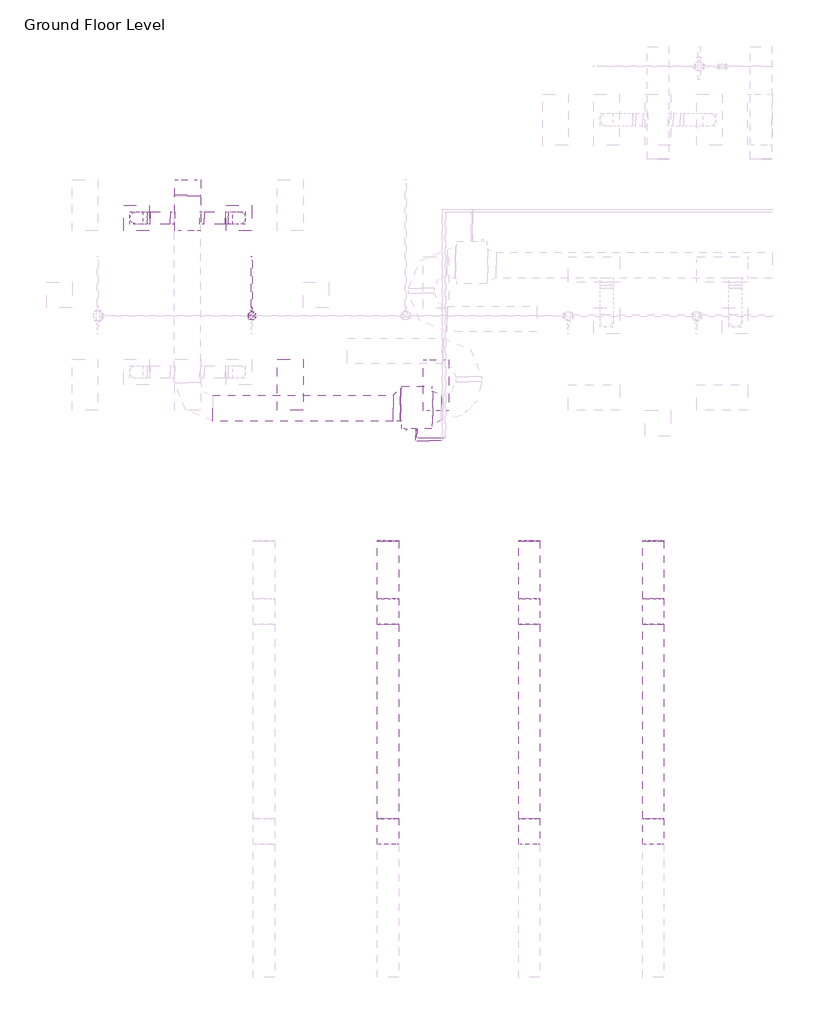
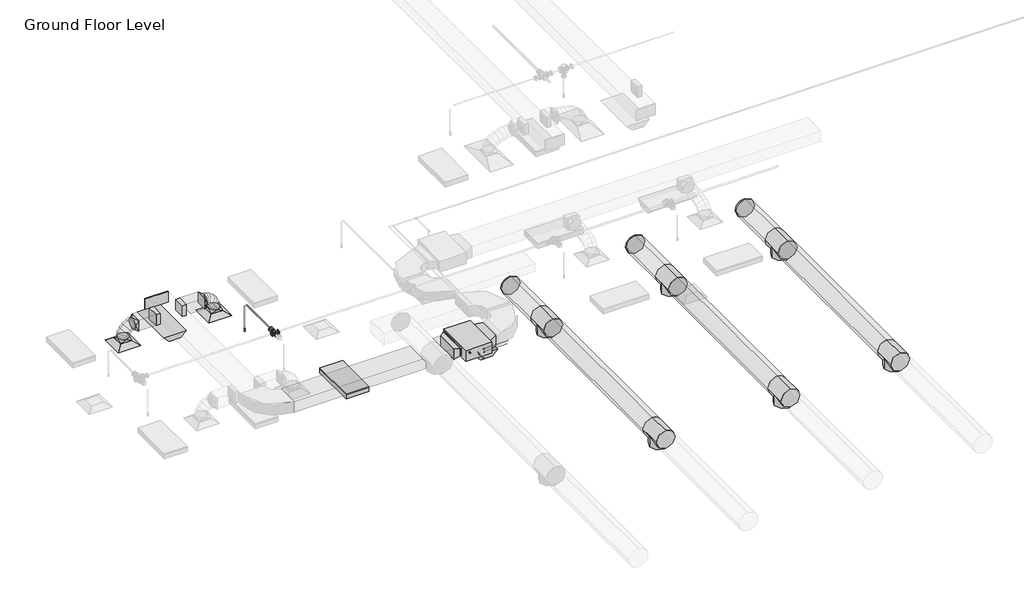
# One storey, part 11 of 75: 18 duct fittings, 12 duct segments, 6 pipe segments, 3 light fixtures, 2 air terminals, 2 pipe fittings, 1 fire suppression terminal, 1 proxy.
"""IFC4 building model written with IfcOpenShell, lengths in millimetres."""

from ifc_helpers import new_model, si_unit, point, frame, frame_2d, origin, place, context, project, spatial, polyline, circle_curve, ellipse_curve, trimmed, segment, composite_curve, outline, extrude, transform, mapped, element, save
from ifc_brep_helpers import plane_surface, cylinder_surface, advanced_brep
from components import m_return_diffuser_600_x_600_face_300_x_300_connection_ff221211, fcu_daikin_iu_7e1df382, m_rectangular_endcap_standard_0f0ff112, m_rectangular_takeoff_standard_cb0ccb98, m_rectangular_takeoff_standard_2be5eba1, m_rectangular_transition_angle_45_degree_cf32fe34, m_rectangular_transition_angle_45_degree_023bf680, m_rectangular_to_round_transition_angle_45_degree_641efff0, m_round_endcap_standard_1c45c55c, m_round_tee_standard_ed589d36, m_sprinkler_dry_pendent_hosted_15_mm_dry_pendent_9bda8e11, m_emergency_recessed_lighting_fixture_600x1200_277_5b10b25d, m_troffer_light_parabolic_rectangular1_0600x1200mm_4_lamp_86473d4a, m_cross_flanged_cs_class_150_standard_16d34c5c, m_reducer_flanged_cs_class_150_standard_ccf252ad

model = new_model("IFC4")

# Units and contexts
model_context = context("Model", 3, world=origin())
ifc_project = project(units=[si_unit("LENGTHUNIT", "METRE", prefix="MILLI")], contexts=[model_context])

# Site, building, storey
site = spatial("IfcSite", under=ifc_project)
building = spatial("IfcBuilding", under=site)
storey = spatial("IfcBuildingStorey", under=building, Name="Ground Floor Level", Elevation=900.0)

# Air terminals
placement = place(None, origin())
m_return_diffuser_600_x_600_face_300_x_300_connection_shape = m_return_diffuser_600_x_600_face_300_x_300_connection_ff221211(model_context)
element("IfcAirTerminal", 1, ObjectType="M_Supply Diffuser : 600 x 600 Face 300 x 300 Connection", at=placement, inside=storey, context=model_context, shape_type="MappedRepresentation", body=[
    mapped(m_return_diffuser_600_x_600_face_300_x_300_connection_shape, transform((-19137.2327605, -664.7846466, 3650.0), x_axis=(1.0, 0.0, 0.0), y_axis=(0.0, 1.0, 0.0), z_axis=(0.0, 0.0, 1.0))),
])
element("IfcAirTerminal", 2, ObjectType="M_Supply Diffuser : 600 x 600 Face 300 x 300 Connection", at=placement, inside=storey, context=model_context, shape_type="MappedRepresentation", body=[
    mapped(m_return_diffuser_600_x_600_face_300_x_300_connection_shape, transform((-16737.2327605, -664.7846466, 3650.0), x_axis=(1.0, 0.0, 0.0), y_axis=(0.0, 1.0, 0.0), z_axis=(0.0, 0.0, 1.0))),
])

# Proxy
fcu_daikin_iu_shape = fcu_daikin_iu_7e1df382(model_context)
element("IfcBuildingElementProxy", 3, Name="FCU-DAIKIN IU : 5.7kW, 230V/50Hz/1Ph", ObjectType="FCU-DAIKIN IU : 5.7kW, 230V/50Hz/1Ph", at=placement, inside=storey, context=model_context, shape_type="MappedRepresentation", body=[
    mapped(fcu_daikin_iu_shape, transform((-12577.2327605, -5093.8471466, 3934.0895647), x_axis=(0.0, -1.0, 0.0), y_axis=(1.0, 0.0, 0.0), z_axis=(0.0, 0.0, 1.0))),
])

# Duct fittings
m_rectangular_endcap_standard_shape = m_rectangular_endcap_standard_0f0ff112(model_context)
element("IfcDuctFitting", 4, ObjectType="M_Rectangular Endcap : Standard", at=placement, inside=storey, context=model_context, shape_type="MappedRepresentation", body=[
    mapped(m_rectangular_endcap_standard_shape, transform((-17948.0331707, -151.2845861, 4100.0020149), x_axis=(0.0, 0.999999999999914, 4.148284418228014e-07), y_axis=(-1.0, 0.0, 0.0), z_axis=(0.0, -4.148284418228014e-07, 0.999999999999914))),
])
m_rectangular_takeoff_standard_shape = m_rectangular_takeoff_standard_cb0ccb98(model_context)
element("IfcDuctFitting", 5, ObjectType="M_Rectangular Takeoff : Standard", at=placement, inside=storey, context=model_context, shape_type="MappedRepresentation", body=[
    mapped(m_rectangular_takeoff_standard_shape, transform((-18248.0331707, -664.7846466, 4100.0018019), x_axis=(-1.0, 0.0, 0.0), y_axis=(0.0, 1.0, 0.0), z_axis=(0.0, 0.0, -1.0))),
])
m_rectangular_takeoff_standard_2_shape = m_rectangular_takeoff_standard_2be5eba1(model_context)
element("IfcDuctFitting", 6, ObjectType="M_Rectangular Takeoff : Standard", at=placement, inside=storey, context=model_context, shape_type="MappedRepresentation", body=[
    mapped(m_rectangular_takeoff_standard_2_shape, transform((-17648.0331707, -664.7846466, 4100.0018019), x_axis=(1.0, 0.0, 0.0), y_axis=(0.0, -1.0, 0.0), z_axis=(0.0, 0.0, -1.0))),
])
m_rectangular_transition_angle_45_degree_shape = m_rectangular_transition_angle_45_degree_cf32fe34(model_context)
element("IfcDuctFitting", 7, ObjectType="M_Rectangular Transition - Angle : 45 Degree", at=placement, inside=storey, context=model_context, shape_type="MappedRepresentation", body=[
    mapped(m_rectangular_transition_angle_45_degree_shape, transform((-12972.63276, -5030.3471466, 4100.0020647), x_axis=(-0.9999999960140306, 0.0, -8.928571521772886e-05), y_axis=(0.0, -1.0, 0.0), z_axis=(-8.928571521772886e-05, 0.0, 0.9999999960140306))),
])
m_rectangular_transition_angle_45_degree_2_shape = m_rectangular_transition_angle_45_degree_023bf680(model_context)
element("IfcDuctFitting", 8, ObjectType="M_Rectangular Transition - Angle : 45 Degree", at=placement, inside=storey, context=model_context, shape_type="MappedRepresentation", body=[
    mapped(m_rectangular_transition_angle_45_degree_2_shape, transform((-12201.8327605, -5093.8471466, 4075.2895647), x_axis=(1.0, 0.0, 0.0), y_axis=(0.0, 1.0, 0.0), z_axis=(0.0, 0.0, 1.0))),
])
m_rectangular_to_round_transition_angle_45_degree_shape = m_rectangular_to_round_transition_angle_45_degree_641efff0(model_context)
element("IfcDuctFitting", 9, ObjectType="M_Rectangular to Round Transition - Angle : 45 Degree", at=placement, inside=storey, context=model_context, shape_type="MappedRepresentation", body=[
    mapped(m_rectangular_to_round_transition_angle_45_degree_shape, transform((-19137.2327605, -664.7846466, 3751.6), x_axis=(0.0, 0.0, 1.0), y_axis=(-1.0, 0.0, 0.0), z_axis=(0.0, -1.0, 0.0))),
])
element("IfcDuctFitting", 10, ObjectType="M_Rectangular to Round Transition - Angle : 45 Degree", at=placement, inside=storey, context=model_context, shape_type="MappedRepresentation", body=[
    mapped(m_rectangular_to_round_transition_angle_45_degree_shape, transform((-18809.8986312, -664.7846466, 4100.0018019), x_axis=(-1.0, 0.0, 0.0), y_axis=(0.0, -1.0, 0.0), z_axis=(0.0, 0.0, 1.0))),
])
element("IfcDuctFitting", 11, ObjectType="M_Rectangular to Round Transition - Angle : 45 Degree", at=placement, inside=storey, context=model_context, shape_type="MappedRepresentation", body=[
    mapped(m_rectangular_to_round_transition_angle_45_degree_shape, transform((-16737.2327605, -664.7846466, 3751.6), x_axis=(0.0, 0.0, 1.0), y_axis=(-1.0, 0.0, 0.0), z_axis=(0.0, -1.0, 0.0))),
])
element("IfcDuctFitting", 12, ObjectType="M_Rectangular to Round Transition - Angle : 45 Degree", at=placement, inside=storey, context=model_context, shape_type="MappedRepresentation", body=[
    mapped(m_rectangular_to_round_transition_angle_45_degree_shape, transform((-17064.5668899, -664.7846466, 4100.0018019), x_axis=(1.0, 0.0, 0.0), y_axis=(0.0, 1.0, 0.0), z_axis=(0.0, 0.0, 1.0))),
])
m_round_endcap_standard_shape = m_round_endcap_standard_1c45c55c(model_context)
element("IfcDuctFitting", 13, ObjectType="M_Round Endcap : Standard", at=placement, inside=storey, context=model_context, shape_type="MappedRepresentation", body=[
    mapped(m_round_endcap_standard_shape, transform((-13250.3527512, -8221.0125677, 7765.9), x_axis=(0.0, 0.9999999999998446, -5.576948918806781e-07), y_axis=(-1.0000000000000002, 0.0, 0.0), z_axis=(0.0, 5.576948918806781e-07, 0.9999999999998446))),
])
element("IfcDuctFitting", 14, ObjectType="M_Round Endcap : Standard", at=placement, inside=storey, context=model_context, shape_type="MappedRepresentation", body=[
    mapped(m_round_endcap_standard_shape, transform((-9950.3527512, -8221.0125677, 7765.9), x_axis=(0.0, 0.9999999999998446, -5.576948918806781e-07), y_axis=(-1.0000000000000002, 0.0, 0.0), z_axis=(0.0, 5.576948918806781e-07, 0.9999999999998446))),
])
element("IfcDuctFitting", 15, ObjectType="M_Round Endcap : Standard", at=placement, inside=storey, context=model_context, shape_type="MappedRepresentation", body=[
    mapped(m_round_endcap_standard_shape, transform((-7050.3527512, -8221.0125677, 7765.9), x_axis=(0.0, 0.9999999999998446, -5.576948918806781e-07), y_axis=(-1.0000000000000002, 0.0, 0.0), z_axis=(0.0, 5.576948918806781e-07, 0.9999999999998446))),
])
m_round_tee_standard_shape = m_round_tee_standard_ed589d36(model_context)
element("IfcDuctFitting", 16, ObjectType="M_Round Tee : Standard", at=placement, inside=storey, context=model_context, shape_type="MappedRepresentation", body=[
    mapped(m_round_tee_standard_shape, transform((-13250.3527512, -9864.7844235, 7765.9009947), x_axis=(0.0, 0.9999999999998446, -5.576948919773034e-07), y_axis=(0.0, 5.576948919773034e-07, 0.9999999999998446), z_axis=(1.0, 0.0, 0.0))),
])
element("IfcDuctFitting", 17, ObjectType="M_Round Tee : Standard", at=placement, inside=storey, context=model_context, shape_type="MappedRepresentation", body=[
    mapped(m_round_tee_standard_shape, transform((-13250.3527512, -15012.784348, 7765.9038657), x_axis=(0.0, 0.9999999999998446, -5.576948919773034e-07), y_axis=(0.0, 5.576948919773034e-07, 0.9999999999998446), z_axis=(1.0, 0.0, 0.0))),
])
element("IfcDuctFitting", 18, ObjectType="M_Round Tee : Standard", at=placement, inside=storey, context=model_context, shape_type="MappedRepresentation", body=[
    mapped(m_round_tee_standard_shape, transform((-9950.3527512, -9864.7844235, 7765.9009947), x_axis=(0.0, 0.9999999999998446, -5.576948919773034e-07), y_axis=(0.0, 5.576948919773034e-07, 0.9999999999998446), z_axis=(1.0, 0.0, 0.0))),
])
element("IfcDuctFitting", 19, ObjectType="M_Round Tee : Standard", at=placement, inside=storey, context=model_context, shape_type="MappedRepresentation", body=[
    mapped(m_round_tee_standard_shape, transform((-9950.3527512, -15012.784348, 7765.9038657), x_axis=(0.0, 0.9999999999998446, -5.576948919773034e-07), y_axis=(0.0, 5.576948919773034e-07, 0.9999999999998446), z_axis=(1.0, 0.0, 0.0))),
])
element("IfcDuctFitting", 20, ObjectType="M_Round Tee : Standard", at=placement, inside=storey, context=model_context, shape_type="MappedRepresentation", body=[
    mapped(m_round_tee_standard_shape, transform((-7050.3527512, -9864.7844235, 7765.9009947), x_axis=(0.0, 0.9999999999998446, -5.576948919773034e-07), y_axis=(0.0, 5.576948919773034e-07, 0.9999999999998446), z_axis=(1.0, 0.0, 0.0))),
])
element("IfcDuctFitting", 21, ObjectType="M_Round Tee : Standard", at=placement, inside=storey, context=model_context, shape_type="MappedRepresentation", body=[
    mapped(m_round_tee_standard_shape, transform((-7050.3527512, -15012.784348, 7765.9038657), x_axis=(0.0, 0.9999999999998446, -5.576948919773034e-07), y_axis=(0.0, 5.576948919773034e-07, 0.9999999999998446), z_axis=(1.0, 0.0, 0.0))),
])

# Duct segments
element("IfcDuctSegment", 22, ObjectType="Flex - Round", at=placement, inside=storey, context=model_context, shape_type="AdvancedBrep", body=[
    advanced_brep(
    [(-18987.2327605, -664.7846466, 3826.6), (-19137.2327605, -814.7846466, 3826.6), (-19287.2327605, -664.7846466, 3826.6), (-19137.2327605, -514.7846466, 3826.6), (-18987.2327605, -664.7846466, 3832.5807508), (-19137.2327605, -814.7846466, 3854.3867302), (-19287.2327605, -664.7846466, 3876.1927096), (-19137.2327605, -514.7846466, 3854.3867302), (-18983.2862759, -664.7846466, 3845.8675264), (-19122.8956049, -814.7846466, 3902.6561626), (-19262.5049338, -664.7846466, 3959.4447987), (-19122.8956049, -514.7846466, 3902.6561626), (-18960.1038192, -664.7846466, 3889.9727121), (-19084.1279284, -814.7846466, 3976.4126063), (-19208.1520375, -664.7846466, 4062.8525006), (-19084.1279284, -514.7846466, 3976.4126063), (-18929.332672, -664.7846466, 3924.1202687), (-19027.2954168, -814.7846466, 4039.481149), (-19125.2581615, -664.7846466, 4154.8420293), (-19027.2954168, -514.7846466, 4039.481149), (-18889.6602728, -664.7846466, 3949.5871315), (-18958.7637558, -814.7846466, 4083.4736083), (-19027.8672388, -664.7846466, 4217.3600851), (-18958.7637558, -514.7846466, 4083.4736083), (-18888.6288567, -664.7846466, 3950.0018019), (-18917.6529238, -814.7846466, 4100.0018019), (-18946.676991, -664.7846466, 4250.0018019), (-18917.6529238, -514.7846466, 4100.0018019), (-18884.8986312, -664.7846466, 3950.0018019), (-18884.8986312, -514.7846466, 4100.0018019), (-18884.8986312, -664.7846466, 4250.0018019), (-18884.8986312, -814.7846466, 4100.0018019)],
    [
        (0, 1, circle_curve(frame((-19137.2327605, -664.7846466, 3826.6), z_axis=(0.0, 0.0, -1.0), x_axis=(1.0, 0.0, 0.0)), 150.0)),
        (1, 2, circle_curve(frame((-19137.2327605, -664.7846466, 3826.6), z_axis=(0.0, 0.0, -1.0), x_axis=(1.0, 0.0, 0.0)), 150.0)),
        (2, 3, circle_curve(frame((-19137.2327605, -664.7846466, 3826.6), z_axis=(0.0, 0.0, -1.0), x_axis=(1.0, 0.0, 0.0)), 150.0)),
        (3, 0, circle_curve(frame((-19137.2327605, -664.7846466, 3826.6), z_axis=(0.0, 0.0, -1.0), x_axis=(1.0, 0.0, 0.0)), 150.0)),
        (0, 4),
        (4, 5, ellipse_curve(frame((-19137.2327605, -664.7846466, 3854.3867302), z_axis=(-0.1438610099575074, 0.0, -0.9895979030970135), x_axis=(0.9895979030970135, 0.0, -0.14386100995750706)), 151.5767157, 150.0)),
        (5, 1),
        (5, 6, ellipse_curve(frame((-19137.2327605, -664.7846466, 3854.3867302), z_axis=(-0.1438610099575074, 0.0, -0.9895979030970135), x_axis=(0.9895979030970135, 0.0, -0.14386100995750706)), 151.5767157, 150.0)),
        (6, 2),
        (6, 7, ellipse_curve(frame((-19137.2327605, -664.7846466, 3854.3867302), z_axis=(-0.1438610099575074, 0.0, -0.9895979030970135), x_axis=(0.9895979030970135, 0.0, -0.14386100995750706)), 151.5767157, 150.0)),
        (7, 3),
        (7, 4, ellipse_curve(frame((-19137.2327605, -664.7846466, 3854.3867302), z_axis=(-0.1438610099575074, 0.0, -0.9895979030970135), x_axis=(0.9895979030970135, 0.0, -0.14386100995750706)), 151.5767157, 150.0)),
        (4, 8),
        (8, 9, ellipse_curve(frame((-19122.8956049, -664.7846466, 3902.6561626), z_axis=(-0.37678902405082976, 0.0, -0.9262991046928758), x_axis=(0.9262991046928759, 0.0, -0.37678902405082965)), 150.7173312, 150.0)),
        (9, 5),
        (9, 10, ellipse_curve(frame((-19122.8956049, -664.7846466, 3902.6561626), z_axis=(-0.37678902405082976, 0.0, -0.9262991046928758), x_axis=(0.9262991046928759, 0.0, -0.37678902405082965)), 150.7173312, 150.0)),
        (10, 6),
        (10, 11, ellipse_curve(frame((-19122.8956049, -664.7846466, 3902.6561626), z_axis=(-0.37678902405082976, 0.0, -0.9262991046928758), x_axis=(0.9262991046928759, 0.0, -0.37678902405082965)), 150.7173312, 150.0)),
        (11, 7),
        (11, 8, ellipse_curve(frame((-19122.8956049, -664.7846466, 3902.6561626), z_axis=(-0.37678902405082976, 0.0, -0.9262991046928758), x_axis=(0.9262991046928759, 0.0, -0.37678902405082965)), 150.7173312, 150.0)),
        (8, 12),
        (12, 13, ellipse_curve(frame((-19084.1279284, -664.7846466, 3976.4126063), z_axis=(-0.5717875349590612, 0.0, -0.8204017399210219), x_axis=(0.8204017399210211, 0.0, -0.5717875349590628)), 151.174849, 150.0)),
        (13, 9),
        (13, 14, ellipse_curve(frame((-19084.1279284, -664.7846466, 3976.4126063), z_axis=(-0.5717875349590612, 0.0, -0.8204017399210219), x_axis=(0.8204017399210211, 0.0, -0.5717875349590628)), 151.174849, 150.0)),
        (14, 10),
        (14, 15, ellipse_curve(frame((-19084.1279284, -664.7846466, 3976.4126063), z_axis=(-0.5717875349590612, 0.0, -0.8204017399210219), x_axis=(0.8204017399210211, 0.0, -0.5717875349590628)), 151.174849, 150.0)),
        (15, 11),
        (15, 12, ellipse_curve(frame((-19084.1279284, -664.7846466, 3976.4126063), z_axis=(-0.5717875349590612, 0.0, -0.8204017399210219), x_axis=(0.8204017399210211, 0.0, -0.5717875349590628)), 151.174849, 150.0)),
        (12, 16),
        (16, 17, ellipse_curve(frame((-19027.2954168, -664.7846466, 4039.481149), z_axis=(-0.7622457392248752, 0.0, -0.6472877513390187), x_axis=(0.6472877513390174, 0.0, -0.7622457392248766)), 151.3434242, 150.0)),
        (17, 13),
        (17, 18, ellipse_curve(frame((-19027.2954168, -664.7846466, 4039.481149), z_axis=(-0.7622457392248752, 0.0, -0.6472877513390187), x_axis=(0.6472877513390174, 0.0, -0.7622457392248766)), 151.3434242, 150.0)),
        (18, 14),
        (18, 19, ellipse_curve(frame((-19027.2954168, -664.7846466, 4039.481149), z_axis=(-0.7622457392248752, 0.0, -0.6472877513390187), x_axis=(0.6472877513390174, 0.0, -0.7622457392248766)), 151.3434242, 150.0)),
        (19, 15),
        (19, 16, ellipse_curve(frame((-19027.2954168, -664.7846466, 4039.481149), z_axis=(-0.7622457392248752, 0.0, -0.6472877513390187), x_axis=(0.6472877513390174, 0.0, -0.7622457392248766)), 151.3434242, 150.0)),
        (16, 20),
        (20, 21, ellipse_curve(frame((-18958.7637558, -664.7846466, 4083.4736083), z_axis=(-0.8886185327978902, 0.0, -0.45864703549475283), x_axis=(0.4586470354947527, 0.0, -0.8886185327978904)), 150.6681122, 150.0)),
        (21, 17),
        (21, 22, ellipse_curve(frame((-18958.7637558, -664.7846466, 4083.4736083), z_axis=(-0.8886185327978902, 0.0, -0.45864703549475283), x_axis=(0.4586470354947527, 0.0, -0.8886185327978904)), 150.6681122, 150.0)),
        (22, 18),
        (22, 23, ellipse_curve(frame((-18958.7637558, -664.7846466, 4083.4736083), z_axis=(-0.8886185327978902, 0.0, -0.45864703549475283), x_axis=(0.4586470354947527, 0.0, -0.8886185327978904)), 150.6681122, 150.0)),
        (23, 19),
        (23, 20, ellipse_curve(frame((-18958.7637558, -664.7846466, 4083.4736083), z_axis=(-0.8886185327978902, 0.0, -0.45864703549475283), x_axis=(0.4586470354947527, 0.0, -0.8886185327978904)), 150.6681122, 150.0)),
        (20, 24),
        (24, 25, ellipse_curve(frame((-18917.6529238, -664.7846466, 4100.0018019), z_axis=(-0.9817898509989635, 0.0, -0.18997023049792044), x_axis=(0.18997023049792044, 0.0, -0.9817898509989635)), 152.7821864, 150.0)),
        (25, 21),
        (25, 26, ellipse_curve(frame((-18917.6529238, -664.7846466, 4100.0018019), z_axis=(-0.9817898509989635, 0.0, -0.18997023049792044), x_axis=(0.18997023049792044, 0.0, -0.9817898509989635)), 152.7821864, 150.0)),
        (26, 22),
        (26, 27, ellipse_curve(frame((-18917.6529238, -664.7846466, 4100.0018019), z_axis=(-0.9817898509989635, 0.0, -0.18997023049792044), x_axis=(0.18997023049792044, 0.0, -0.9817898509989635)), 152.7821864, 150.0)),
        (27, 23),
        (27, 24, ellipse_curve(frame((-18917.6529238, -664.7846466, 4100.0018019), z_axis=(-0.9817898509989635, 0.0, -0.18997023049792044), x_axis=(0.18997023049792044, 0.0, -0.9817898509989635)), 152.7821864, 150.0)),
        (28, 29, circle_curve(frame((-18884.8986312, -664.7846466, 4100.0018019), z_axis=(1.0, 0.0, 0.0), x_axis=(0.0, 0.0, -1.0)), 150.0)),
        (29, 30, circle_curve(frame((-18884.8986312, -664.7846466, 4100.0018019), z_axis=(1.0, 0.0, 0.0), x_axis=(0.0, 0.0, -1.0)), 150.0)),
        (30, 31, circle_curve(frame((-18884.8986312, -664.7846466, 4100.0018019), z_axis=(1.0, 0.0, 0.0), x_axis=(0.0, 0.0, -1.0)), 150.0)),
        (31, 28, circle_curve(frame((-18884.8986312, -664.7846466, 4100.0018019), z_axis=(1.0, 0.0, 0.0), x_axis=(0.0, 0.0, -1.0)), 150.0)),
        (24, 28),
        (31, 25),
        (30, 26),
        (29, 27),
    ],
    [
        plane_surface(frame((-19137.2327605, -814.7846466, 3826.6), z_axis=(0.0, 0.0, -1.0), x_axis=(1.0, 0.0, 0.0))),
        cylinder_surface(frame((-19137.2327605, -664.7846466, 3826.6), z_axis=(0.0, 0.0, -1.0), x_axis=(1.0, 0.0, 0.0)), 150.0),
        cylinder_surface(frame((-19137.2327605, -664.7846466, 3854.3867302), z_axis=(-0.28472910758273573, 0.0, -0.958608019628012), x_axis=(0.958608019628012, 0.0, -0.28472910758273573)), 150.0),
        cylinder_surface(frame((-19122.8956049, -664.7846466, 3902.6561626), z_axis=(-0.46526232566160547, 0.0, -0.8851728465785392), x_axis=(0.8851728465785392, 0.0, -0.46526232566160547)), 150.0),
        cylinder_surface(frame((-19084.1279284, -664.7846466, 3976.4126063), z_axis=(-0.6694254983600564, 0.0, -0.7428791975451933), x_axis=(0.7428791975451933, 0.0, -0.6694254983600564)), 150.0),
        cylinder_surface(frame((-19027.2954168, -664.7846466, 4039.481149), z_axis=(-0.8415335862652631, 0.0, -0.5402047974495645), x_axis=(0.5402047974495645, 0.0, -0.8415335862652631)), 150.0),
        cylinder_surface(frame((-18958.7637558, -664.7846466, 4083.4736083), z_axis=(-0.9278226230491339, 0.0, -0.3730216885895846), x_axis=(0.3730216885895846, 0.0, -0.9278226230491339)), 150.0),
        plane_surface(frame((-18884.8986312, -664.7846466, 3950.0018019), z_axis=(1.0, 0.0, 0.0), x_axis=(0.0, 1.0, 0.0))),
        cylinder_surface(frame((-18917.6529238, -664.7846466, 4100.0018019), z_axis=(-1.0, 0.0, 0.0), x_axis=(0.0, 0.0, -1.0)), 150.0),
    ],
    [
        (0, [[1, 2, 3, 4]]),
        (1, [[-1, 5, 6, 7]]),
        (1, [[-2, -7, 8, 9]]),
        (1, [[-3, -9, 10, 11]]),
        (1, [[-4, -11, 12, -5]]),
        (2, [[-6, 13, 14, 15]]),
        (2, [[-8, -15, 16, 17]]),
        (2, [[-10, -17, 18, 19]]),
        (2, [[-12, -19, 20, -13]]),
        (3, [[-14, 21, 22, 23]]),
        (3, [[-16, -23, 24, 25]]),
        (3, [[-18, -25, 26, 27]]),
        (3, [[-20, -27, 28, -21]]),
        (4, [[-22, 29, 30, 31]]),
        (4, [[-24, -31, 32, 33]]),
        (4, [[-26, -33, 34, 35]]),
        (4, [[-28, -35, 36, -29]]),
        (5, [[-30, 37, 38, 39]]),
        (5, [[-32, -39, 40, 41]]),
        (5, [[-34, -41, 42, 43]]),
        (5, [[-36, -43, 44, -37]]),
        (6, [[-38, 45, 46, 47]]),
        (6, [[-40, -47, 48, 49]]),
        (6, [[-42, -49, 50, 51]]),
        (6, [[-44, -51, 52, -45]]),
        (7, [[53, 54, 55, 56]]),
        (8, [[-46, 57, -56, 58]]),
        (8, [[-48, -58, -55, 59]]),
        (8, [[-50, -59, -54, 60]]),
        (8, [[-52, -60, -53, -57]]),
    ],
),
])
element("IfcDuctSegment", 23, ObjectType="Flex - Round", at=placement, inside=storey, context=model_context, shape_type="AdvancedBrep", body=[
    advanced_brep(
    [(-16587.2327605, -664.7846466, 3826.6), (-16737.2327605, -814.7846466, 3826.6), (-16887.2327605, -664.7846466, 3826.6), (-16737.2327605, -514.7846466, 3826.6), (-16587.2327605, -664.7846466, 3876.1927096), (-16737.2327605, -814.7846466, 3854.3867302), (-16887.2327605, -664.7846466, 3832.5807508), (-16737.2327605, -514.7846466, 3854.3867302), (-16611.9605873, -664.7846466, 3959.4447987), (-16751.5699162, -814.7846466, 3902.6561626), (-16891.1792451, -664.7846466, 3845.8675264), (-16751.5699162, -514.7846466, 3902.6561626), (-16666.3134835, -664.7846466, 4062.8525006), (-16790.3375927, -814.7846466, 3976.4126063), (-16914.3617019, -664.7846466, 3889.9727121), (-16790.3375927, -514.7846466, 3976.4126063), (-16749.2073595, -664.7846466, 4154.8420293), (-16847.1701043, -814.7846466, 4039.481149), (-16945.132849, -664.7846466, 3924.1202687), (-16847.1701043, -514.7846466, 4039.481149), (-16846.5982823, -664.7846466, 4217.3600851), (-16915.7017653, -814.7846466, 4083.4736083), (-16984.8052483, -664.7846466, 3949.5871315), (-16915.7017653, -514.7846466, 4083.4736083), (-16927.78853, -664.7846466, 4250.0018019), (-16956.8125972, -814.7846466, 4100.0018019), (-16985.8366644, -664.7846466, 3950.0018019), (-16956.8125972, -514.7846466, 4100.0018019), (-16989.5668899, -664.7846466, 4250.0018019), (-16989.5668899, -514.7846466, 4100.0018019), (-16989.5668899, -664.7846466, 3950.0018019), (-16989.5668899, -814.7846466, 4100.0018019)],
    [
        (0, 1, circle_curve(frame((-16737.2327605, -664.7846466, 3826.6), z_axis=(0.0, 0.0, -1.0), x_axis=(1.0, 0.0, 0.0)), 150.0)),
        (1, 2, circle_curve(frame((-16737.2327605, -664.7846466, 3826.6), z_axis=(0.0, 0.0, -1.0), x_axis=(1.0, 0.0, 0.0)), 150.0)),
        (2, 3, circle_curve(frame((-16737.2327605, -664.7846466, 3826.6), z_axis=(0.0, 0.0, -1.0), x_axis=(1.0, 0.0, 0.0)), 150.0)),
        (3, 0, circle_curve(frame((-16737.2327605, -664.7846466, 3826.6), z_axis=(0.0, 0.0, -1.0), x_axis=(1.0, 0.0, 0.0)), 150.0)),
        (0, 4),
        (4, 5, ellipse_curve(frame((-16737.2327605, -664.7846466, 3854.3867302), z_axis=(0.1438610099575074, 0.0, -0.9895979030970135), x_axis=(-0.9895979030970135, 0.0, -0.14386100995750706)), 151.5767157, 150.0)),
        (5, 1),
        (5, 6, ellipse_curve(frame((-16737.2327605, -664.7846466, 3854.3867302), z_axis=(0.1438610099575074, 0.0, -0.9895979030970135), x_axis=(-0.9895979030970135, 0.0, -0.14386100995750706)), 151.5767157, 150.0)),
        (6, 2),
        (6, 7, ellipse_curve(frame((-16737.2327605, -664.7846466, 3854.3867302), z_axis=(0.1438610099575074, 0.0, -0.9895979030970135), x_axis=(-0.9895979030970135, 0.0, -0.14386100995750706)), 151.5767157, 150.0)),
        (7, 3),
        (7, 4, ellipse_curve(frame((-16737.2327605, -664.7846466, 3854.3867302), z_axis=(0.1438610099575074, 0.0, -0.9895979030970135), x_axis=(-0.9895979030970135, 0.0, -0.14386100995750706)), 151.5767157, 150.0)),
        (4, 8),
        (8, 9, ellipse_curve(frame((-16751.5699162, -664.7846466, 3902.6561626), z_axis=(0.37678902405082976, 0.0, -0.9262991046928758), x_axis=(-0.9262991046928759, 0.0, -0.37678902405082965)), 150.7173312, 150.0)),
        (9, 5),
        (9, 10, ellipse_curve(frame((-16751.5699162, -664.7846466, 3902.6561626), z_axis=(0.37678902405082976, 0.0, -0.9262991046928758), x_axis=(-0.9262991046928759, 0.0, -0.37678902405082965)), 150.7173312, 150.0)),
        (10, 6),
        (10, 11, ellipse_curve(frame((-16751.5699162, -664.7846466, 3902.6561626), z_axis=(0.37678902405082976, 0.0, -0.9262991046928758), x_axis=(-0.9262991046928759, 0.0, -0.37678902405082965)), 150.7173312, 150.0)),
        (11, 7),
        (11, 8, ellipse_curve(frame((-16751.5699162, -664.7846466, 3902.6561626), z_axis=(0.37678902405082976, 0.0, -0.9262991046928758), x_axis=(-0.9262991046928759, 0.0, -0.37678902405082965)), 150.7173312, 150.0)),
        (8, 12),
        (12, 13, ellipse_curve(frame((-16790.3375927, -664.7846466, 3976.4126063), z_axis=(0.5717875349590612, 0.0, -0.8204017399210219), x_axis=(-0.8204017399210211, 0.0, -0.5717875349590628)), 151.174849, 150.0)),
        (13, 9),
        (13, 14, ellipse_curve(frame((-16790.3375927, -664.7846466, 3976.4126063), z_axis=(0.5717875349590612, 0.0, -0.8204017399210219), x_axis=(-0.8204017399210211, 0.0, -0.5717875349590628)), 151.174849, 150.0)),
        (14, 10),
        (14, 15, ellipse_curve(frame((-16790.3375927, -664.7846466, 3976.4126063), z_axis=(0.5717875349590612, 0.0, -0.8204017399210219), x_axis=(-0.8204017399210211, 0.0, -0.5717875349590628)), 151.174849, 150.0)),
        (15, 11),
        (15, 12, ellipse_curve(frame((-16790.3375927, -664.7846466, 3976.4126063), z_axis=(0.5717875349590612, 0.0, -0.8204017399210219), x_axis=(-0.8204017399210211, 0.0, -0.5717875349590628)), 151.174849, 150.0)),
        (12, 16),
        (16, 17, ellipse_curve(frame((-16847.1701043, -664.7846466, 4039.481149), z_axis=(0.7622457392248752, 0.0, -0.6472877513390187), x_axis=(-0.6472877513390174, 0.0, -0.7622457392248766)), 151.3434242, 150.0)),
        (17, 13),
        (17, 18, ellipse_curve(frame((-16847.1701043, -664.7846466, 4039.481149), z_axis=(0.7622457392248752, 0.0, -0.6472877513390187), x_axis=(-0.6472877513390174, 0.0, -0.7622457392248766)), 151.3434242, 150.0)),
        (18, 14),
        (18, 19, ellipse_curve(frame((-16847.1701043, -664.7846466, 4039.481149), z_axis=(0.7622457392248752, 0.0, -0.6472877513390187), x_axis=(-0.6472877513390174, 0.0, -0.7622457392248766)), 151.3434242, 150.0)),
        (19, 15),
        (19, 16, ellipse_curve(frame((-16847.1701043, -664.7846466, 4039.481149), z_axis=(0.7622457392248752, 0.0, -0.6472877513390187), x_axis=(-0.6472877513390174, 0.0, -0.7622457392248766)), 151.3434242, 150.0)),
        (16, 20),
        (20, 21, ellipse_curve(frame((-16915.7017653, -664.7846466, 4083.4736083), z_axis=(0.8886185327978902, 0.0, -0.45864703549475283), x_axis=(-0.4586470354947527, 0.0, -0.8886185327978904)), 150.6681122, 150.0)),
        (21, 17),
        (21, 22, ellipse_curve(frame((-16915.7017653, -664.7846466, 4083.4736083), z_axis=(0.8886185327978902, 0.0, -0.45864703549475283), x_axis=(-0.4586470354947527, 0.0, -0.8886185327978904)), 150.6681122, 150.0)),
        (22, 18),
        (22, 23, ellipse_curve(frame((-16915.7017653, -664.7846466, 4083.4736083), z_axis=(0.8886185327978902, 0.0, -0.45864703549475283), x_axis=(-0.4586470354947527, 0.0, -0.8886185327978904)), 150.6681122, 150.0)),
        (23, 19),
        (23, 20, ellipse_curve(frame((-16915.7017653, -664.7846466, 4083.4736083), z_axis=(0.8886185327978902, 0.0, -0.45864703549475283), x_axis=(-0.4586470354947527, 0.0, -0.8886185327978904)), 150.6681122, 150.0)),
        (20, 24),
        (24, 25, ellipse_curve(frame((-16956.8125972, -664.7846466, 4100.0018019), z_axis=(0.9817898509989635, 0.0, -0.18997023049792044), x_axis=(-0.18997023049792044, 0.0, -0.9817898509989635)), 152.7821864, 150.0)),
        (25, 21),
        (25, 26, ellipse_curve(frame((-16956.8125972, -664.7846466, 4100.0018019), z_axis=(0.9817898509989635, 0.0, -0.18997023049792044), x_axis=(-0.18997023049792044, 0.0, -0.9817898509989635)), 152.7821864, 150.0)),
        (26, 22),
        (26, 27, ellipse_curve(frame((-16956.8125972, -664.7846466, 4100.0018019), z_axis=(0.9817898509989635, 0.0, -0.18997023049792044), x_axis=(-0.18997023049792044, 0.0, -0.9817898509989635)), 152.7821864, 150.0)),
        (27, 23),
        (27, 24, ellipse_curve(frame((-16956.8125972, -664.7846466, 4100.0018019), z_axis=(0.9817898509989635, 0.0, -0.18997023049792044), x_axis=(-0.18997023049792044, 0.0, -0.9817898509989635)), 152.7821864, 150.0)),
        (28, 29, circle_curve(frame((-16989.5668899, -664.7846466, 4100.0018019), z_axis=(-1.0, 0.0, 0.0), x_axis=(0.0, 0.0, 1.0)), 150.0)),
        (29, 30, circle_curve(frame((-16989.5668899, -664.7846466, 4100.0018019), z_axis=(-1.0, 0.0, 0.0), x_axis=(0.0, 0.0, 1.0)), 150.0)),
        (30, 31, circle_curve(frame((-16989.5668899, -664.7846466, 4100.0018019), z_axis=(-1.0, 0.0, 0.0), x_axis=(0.0, 0.0, 1.0)), 150.0)),
        (31, 28, circle_curve(frame((-16989.5668899, -664.7846466, 4100.0018019), z_axis=(-1.0, 0.0, 0.0), x_axis=(0.0, 0.0, 1.0)), 150.0)),
        (24, 28),
        (31, 25),
        (30, 26),
        (29, 27),
    ],
    [
        plane_surface(frame((-16737.2327605, -814.7846466, 3826.6), z_axis=(0.0, 0.0, -1.0), x_axis=(1.0, 0.0, 0.0))),
        cylinder_surface(frame((-16737.2327605, -664.7846466, 3826.6), z_axis=(0.0, 0.0, -1.0), x_axis=(1.0, 0.0, 0.0)), 150.0),
        cylinder_surface(frame((-16737.2327605, -664.7846466, 3854.3867302), z_axis=(0.28472910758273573, 0.0, -0.958608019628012), x_axis=(0.958608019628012, 0.0, 0.28472910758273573)), 150.0),
        cylinder_surface(frame((-16751.5699162, -664.7846466, 3902.6561626), z_axis=(0.46526232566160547, 0.0, -0.8851728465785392), x_axis=(0.8851728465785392, 0.0, 0.46526232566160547)), 150.0),
        cylinder_surface(frame((-16790.3375927, -664.7846466, 3976.4126063), z_axis=(0.6694254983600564, 0.0, -0.7428791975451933), x_axis=(0.7428791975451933, 0.0, 0.6694254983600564)), 150.0),
        cylinder_surface(frame((-16847.1701043, -664.7846466, 4039.481149), z_axis=(0.8415335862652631, 0.0, -0.5402047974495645), x_axis=(0.5402047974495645, 0.0, 0.8415335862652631)), 150.0),
        cylinder_surface(frame((-16915.7017653, -664.7846466, 4083.4736083), z_axis=(0.9278226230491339, 0.0, -0.3730216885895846), x_axis=(0.3730216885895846, 0.0, 0.9278226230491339)), 150.0),
        plane_surface(frame((-16989.5668899, -664.7846466, 3950.0018019), z_axis=(-1.0, 0.0, 0.0), x_axis=(0.0, -1.0, 0.0))),
        cylinder_surface(frame((-16956.8125972, -664.7846466, 4100.0018019), z_axis=(1.0, 0.0, 0.0), x_axis=(0.0, 0.0, 1.0)), 150.0),
    ],
    [
        (0, [[1, 2, 3, 4]]),
        (1, [[-1, 5, 6, 7]]),
        (1, [[-2, -7, 8, 9]]),
        (1, [[-3, -9, 10, 11]]),
        (1, [[-4, -11, 12, -5]]),
        (2, [[-6, 13, 14, 15]]),
        (2, [[-8, -15, 16, 17]]),
        (2, [[-10, -17, 18, 19]]),
        (2, [[-12, -19, 20, -13]]),
        (3, [[-14, 21, 22, 23]]),
        (3, [[-16, -23, 24, 25]]),
        (3, [[-18, -25, 26, 27]]),
        (3, [[-20, -27, 28, -21]]),
        (4, [[-22, 29, 30, 31]]),
        (4, [[-24, -31, 32, 33]]),
        (4, [[-26, -33, 34, 35]]),
        (4, [[-28, -35, 36, -29]]),
        (5, [[-30, 37, 38, 39]]),
        (5, [[-32, -39, 40, 41]]),
        (5, [[-34, -41, 42, 43]]),
        (5, [[-36, -43, 44, -37]]),
        (6, [[-38, 45, 46, 47]]),
        (6, [[-40, -47, 48, 49]]),
        (6, [[-42, -49, 50, 51]]),
        (6, [[-44, -51, 52, -45]]),
        (7, [[53, 54, 55, 56]]),
        (8, [[-46, 57, -56, 58]]),
        (8, [[-48, -58, -55, 59]]),
        (8, [[-50, -59, -54, 60]]),
        (8, [[-52, -60, -53, -57]]),
    ],
),
])
element("IfcDuctSegment", 24, ObjectType="Radius Elbows / Taps", at=placement, inside=storey, context=model_context, shape_type="SweptSolid", body=[
    extrude(outline(polyline([(0.0, -600.0), (0.0, 0.0), (4213.5254116, 0.0), (4213.5254116, -600.0), (0.0, -600.0)])), frame((-17348.0336749, -4811.2846466, 3950.0), z_axis=(3.3610180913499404e-06, 0.0, 0.9999999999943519), x_axis=(0.9999999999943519, 0.0, -3.3610180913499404e-06)), (0.0, 0.0, 1.0), 300.0),
])
element("IfcDuctSegment", 25, ObjectType="Radius Elbows / Taps", at=placement, inside=storey, context=model_context, shape_type="SweptSolid", body=[
    extrude(outline(polyline([(-12952.6327605, -4649.4096466), (-12952.6327605, -5411.2846466), (-12972.63276, -5411.2846466), (-12972.63276, -4649.4096466), (-12952.6327605, -4649.4096466)])), frame((0.0, 0.0, 3992.8645647), z_axis=(0.0, 0.0, 1.0), x_axis=(1.0, 0.0, 0.0)), (0.0, 0.0, 1.0), 214.275),
])
element("IfcDuctSegment", 26, ObjectType="Radius Elbows / Taps", at=placement, inside=storey, context=model_context, shape_type="SweptSolid", body=[
    extrude(outline(polyline([(-17546.4331707, -814.7846466), (-17546.4331707, -514.7846466), (-17064.5668899, -514.7846466), (-17064.5668899, -814.7846466), (-17546.4331707, -814.7846466)])), frame((0.0, 0.0, 3950.0018019), z_axis=(0.0, 0.0, 1.0), x_axis=(1.0, 0.0, 0.0)), (0.0, 0.0, 1.0), 300.0),
])
element("IfcDuctSegment", 27, ObjectType="Radius Elbows / Taps", at=placement, inside=storey, context=model_context, shape_type="SweptSolid", body=[
    extrude(outline(polyline([(-18349.6331707, -514.7846466), (-18349.6331707, -814.7846466), (-18809.8986312, -814.7846466), (-18809.8986312, -514.7846466), (-18349.6331707, -514.7846466)])), frame((0.0, 0.0, 3950.0018019), z_axis=(0.0, 0.0, 1.0), x_axis=(1.0, 0.0, 0.0)), (0.0, 0.0, 1.0), 300.0),
])
element("IfcDuctSegment", 28, ObjectType="Tees", at=placement, inside=storey, context=model_context, shape_type="SweptSolid", body=[
    extrude(outline(composite_curve([segment(trimmed(circle_curve(frame_2d((7765.9008274, -13250.3527512)), 250.0), [point((7765.9008274, -13500.3527512))], [point((7515.9008274, -13250.3527512))], False, "CARTESIAN"), True, "CONTINUOUS"), segment(trimmed(circle_curve(frame_2d((7765.9008274, -13250.3527512)), 250.0), [point((7515.9008274, -13250.3527512))], [point((7765.9008274, -13000.3527512))], False, "CARTESIAN"), True, "CONTINUOUS"), segment(trimmed(circle_curve(frame_2d((7765.9008274, -13250.3527512)), 250.0), [point((7765.9008274, -13000.3527512))], [point((8015.9008274, -13250.3527512))], False, "CARTESIAN"), True, "CONTINUOUS"), segment(trimmed(circle_curve(frame_2d((7765.9008274, -13250.3527512)), 250.0), [point((8015.9008274, -13250.3527512))], [point((7765.9008274, -13500.3527512))], False, "CARTESIAN"), True, "CONTINUOUS")], self_intersect=False)), frame((0.0, -9564.7844235, 0.0), z_axis=(0.0, 1.0, 0.0), x_axis=(0.0, 0.0, 1.0)), (0.0, 0.0, 1.0), 1343.7718558),
])
element("IfcDuctSegment", 29, ObjectType="Tees", at=placement, inside=storey, context=model_context, shape_type="SweptSolid", body=[
    extrude(outline(composite_curve([segment(trimmed(circle_curve(frame_2d((7765.901162, -13250.3527512)), 250.0), [point((7765.901162, -13500.3527512))], [point((7515.901162, -13250.3527512))], False, "CARTESIAN"), True, "CONTINUOUS"), segment(trimmed(circle_curve(frame_2d((7765.901162, -13250.3527512)), 250.0), [point((7515.901162, -13250.3527512))], [point((7765.901162, -13000.3527512))], False, "CARTESIAN"), True, "CONTINUOUS"), segment(trimmed(circle_curve(frame_2d((7765.901162, -13250.3527512)), 250.0), [point((7765.901162, -13000.3527512))], [point((8015.901162, -13250.3527512))], False, "CARTESIAN"), True, "CONTINUOUS"), segment(trimmed(circle_curve(frame_2d((7765.901162, -13250.3527512)), 250.0), [point((8015.901162, -13250.3527512))], [point((7765.901162, -13500.3527512))], False, "CARTESIAN"), True, "CONTINUOUS")], self_intersect=False)), frame((0.0, -14712.784348, 0.0), z_axis=(0.0, 1.0, 0.0), x_axis=(0.0, 0.0, 1.0)), (0.0, 0.0, 1.0), 4547.9999245),
])
element("IfcDuctSegment", 30, ObjectType="Tees", at=placement, inside=storey, context=model_context, shape_type="SweptSolid", body=[
    extrude(outline(composite_curve([segment(trimmed(circle_curve(frame_2d((7765.9008274, -9950.3527512)), 250.0), [point((7765.9008274, -10200.3527512))], [point((7515.9008274, -9950.3527512))], False, "CARTESIAN"), True, "CONTINUOUS"), segment(trimmed(circle_curve(frame_2d((7765.9008274, -9950.3527512)), 250.0), [point((7515.9008274, -9950.3527512))], [point((7765.9008274, -9700.3527512))], False, "CARTESIAN"), True, "CONTINUOUS"), segment(trimmed(circle_curve(frame_2d((7765.9008274, -9950.3527512)), 250.0), [point((7765.9008274, -9700.3527512))], [point((8015.9008274, -9950.3527512))], False, "CARTESIAN"), True, "CONTINUOUS"), segment(trimmed(circle_curve(frame_2d((7765.9008274, -9950.3527512)), 250.0), [point((8015.9008274, -9950.3527512))], [point((7765.9008274, -10200.3527512))], False, "CARTESIAN"), True, "CONTINUOUS")], self_intersect=False)), frame((0.0, -9564.7844235, 0.0), z_axis=(0.0, 1.0, 0.0), x_axis=(0.0, 0.0, 1.0)), (0.0, 0.0, 1.0), 1343.7718558),
])
element("IfcDuctSegment", 31, ObjectType="Tees", at=placement, inside=storey, context=model_context, shape_type="SweptSolid", body=[
    extrude(outline(composite_curve([segment(trimmed(circle_curve(frame_2d((7765.901162, -9950.3527512)), 250.0), [point((7765.901162, -10200.3527512))], [point((7515.901162, -9950.3527512))], False, "CARTESIAN"), True, "CONTINUOUS"), segment(trimmed(circle_curve(frame_2d((7765.901162, -9950.3527512)), 250.0), [point((7515.901162, -9950.3527512))], [point((7765.901162, -9700.3527512))], False, "CARTESIAN"), True, "CONTINUOUS"), segment(trimmed(circle_curve(frame_2d((7765.901162, -9950.3527512)), 250.0), [point((7765.901162, -9700.3527512))], [point((8015.901162, -9950.3527512))], False, "CARTESIAN"), True, "CONTINUOUS"), segment(trimmed(circle_curve(frame_2d((7765.901162, -9950.3527512)), 250.0), [point((8015.901162, -9950.3527512))], [point((7765.901162, -10200.3527512))], False, "CARTESIAN"), True, "CONTINUOUS")], self_intersect=False)), frame((0.0, -14712.784348, 0.0), z_axis=(0.0, 1.0, 0.0), x_axis=(0.0, 0.0, 1.0)), (0.0, 0.0, 1.0), 4547.9999245),
])
element("IfcDuctSegment", 32, ObjectType="Tees", at=placement, inside=storey, context=model_context, shape_type="SweptSolid", body=[
    extrude(outline(composite_curve([segment(trimmed(circle_curve(frame_2d((7765.9008274, -7050.3527512)), 250.0), [point((7765.9008274, -7300.3527512))], [point((7515.9008274, -7050.3527512))], False, "CARTESIAN"), True, "CONTINUOUS"), segment(trimmed(circle_curve(frame_2d((7765.9008274, -7050.3527512)), 250.0), [point((7515.9008274, -7050.3527512))], [point((7765.9008274, -6800.3527512))], False, "CARTESIAN"), True, "CONTINUOUS"), segment(trimmed(circle_curve(frame_2d((7765.9008274, -7050.3527512)), 250.0), [point((7765.9008274, -6800.3527512))], [point((8015.9008274, -7050.3527512))], False, "CARTESIAN"), True, "CONTINUOUS"), segment(trimmed(circle_curve(frame_2d((7765.9008274, -7050.3527512)), 250.0), [point((8015.9008274, -7050.3527512))], [point((7765.9008274, -7300.3527512))], False, "CARTESIAN"), True, "CONTINUOUS")], self_intersect=False)), frame((0.0, -9564.7844235, 0.0), z_axis=(0.0, 1.0, 0.0), x_axis=(0.0, 0.0, 1.0)), (0.0, 0.0, 1.0), 1343.7718558),
])
element("IfcDuctSegment", 33, ObjectType="Tees", at=placement, inside=storey, context=model_context, shape_type="SweptSolid", body=[
    extrude(outline(composite_curve([segment(trimmed(circle_curve(frame_2d((7765.901162, -7050.3527512)), 250.0), [point((7765.901162, -7300.3527512))], [point((7515.901162, -7050.3527512))], False, "CARTESIAN"), True, "CONTINUOUS"), segment(trimmed(circle_curve(frame_2d((7765.901162, -7050.3527512)), 250.0), [point((7515.901162, -7050.3527512))], [point((7765.901162, -6800.3527512))], False, "CARTESIAN"), True, "CONTINUOUS"), segment(trimmed(circle_curve(frame_2d((7765.901162, -7050.3527512)), 250.0), [point((7765.901162, -6800.3527512))], [point((8015.901162, -7050.3527512))], False, "CARTESIAN"), True, "CONTINUOUS"), segment(trimmed(circle_curve(frame_2d((7765.901162, -7050.3527512)), 250.0), [point((8015.901162, -7050.3527512))], [point((7765.901162, -7300.3527512))], False, "CARTESIAN"), True, "CONTINUOUS")], self_intersect=False)), frame((0.0, -14712.784348, 0.0), z_axis=(0.0, 1.0, 0.0), x_axis=(0.0, 0.0, 1.0)), (0.0, 0.0, 1.0), 4547.9999245),
])

# Fire suppression terminal
m_sprinkler_dry_pendent_hosted_15_mm_dry_pendent_shape = m_sprinkler_dry_pendent_hosted_15_mm_dry_pendent_9bda8e11(model_context)
element("IfcFireSuppressionTerminal", 34, ObjectType="M_Sprinkler - Dry - Pendent - Hosted : 15 mm Dry Pendent", at=placement, inside=storey, context=model_context, shape_type="MappedRepresentation", body=[
    mapped(m_sprinkler_dry_pendent_hosted_15_mm_dry_pendent_shape, transform((-16437.2327605, -1564.7846466, 3650.0), x_axis=(1.0, 0.0, 0.0), y_axis=(0.0, -1.0, 0.0), z_axis=(0.0, 0.0, -1.0))),
])

# Light fixtures
m_emergency_recessed_lighting_fixture_600x1200_277_shape = m_emergency_recessed_lighting_fixture_600x1200_277_5b10b25d(model_context)
element("IfcLightFixture", 35, ObjectType="M_Emergency Recessed Lighting Fixture : 600x1200 - 277", at=placement, inside=storey, context=model_context, shape_type="MappedRepresentation", body=[
    mapped(m_emergency_recessed_lighting_fixture_600x1200_277_shape, transform((-18237.2327605, -964.7846466, 3650.0), x_axis=(0.0, 1.0, 0.0), y_axis=(-1.0, 0.0, 0.0), z_axis=(0.0, 0.0, 1.0))),
])
element("IfcLightFixture", 36, ObjectType="M_Emergency Recessed Lighting Fixture : 600x1200 - 277", at=placement, inside=storey, context=model_context, shape_type="MappedRepresentation", body=[
    mapped(m_emergency_recessed_lighting_fixture_600x1200_277_shape, transform((-12427.2327605, -5174.7846466, 3650.0), x_axis=(0.0, 1.0, 0.0), y_axis=(-1.0, 0.0, 0.0), z_axis=(0.0, 0.0, 1.0))),
])
m_troffer_light_parabolic_rectangular1_0600x1200mm_4_lamp_shape = m_troffer_light_parabolic_rectangular1_0600x1200mm_4_lamp_86473d4a(model_context)
element("IfcLightFixture", 37, ObjectType="M_Troffer Light - Parabolic Rectangular1 : 0600x1200mm(4 Lamp) - 277V 2", at=placement, inside=storey, context=model_context, shape_type="MappedRepresentation", body=[
    mapped(m_troffer_light_parabolic_rectangular1_0600x1200mm_4_lamp_shape, transform((-15596.6986926, -4546.081145, 3650.0), x_axis=(0.0, 1.0, 0.0), y_axis=(-1.0, 0.0, 0.0), z_axis=(0.0, 0.0, 1.0))),
])

# Pipe fittings
m_cross_flanged_cs_class_150_standard_shape = m_cross_flanged_cs_class_150_standard_16d34c5c(model_context)
element("IfcPipeFitting", 38, ObjectType="M_Cross - Flanged - CS - Class 150 : Standard", at=placement, inside=storey, context=model_context, shape_type="MappedRepresentation", body=[
    mapped(m_cross_flanged_cs_class_150_standard_shape, transform((-16437.2327605, -2950.3491993, 4360.0), x_axis=(1.0, 0.0, 0.0), y_axis=(0.0, -1.0, 0.0), z_axis=(0.0, 0.0, -1.0))),
])
m_reducer_flanged_cs_class_150_standard_shape = m_reducer_flanged_cs_class_150_standard_ccf252ad(model_context)
element("IfcPipeFitting", 39, ObjectType="M_Reducer - Flanged - CS - Class 150 : Standard", at=placement, inside=storey, context=model_context, shape_type="MappedRepresentation", body=[
    mapped(m_reducer_flanged_cs_class_150_standard_shape, transform((-16437.2327605, -2861.3491993, 4360.0), x_axis=(0.0, 1.0, 0.0), y_axis=(-1.0, 0.0, 0.0), z_axis=(0.0, 0.0, 1.0))),
])

# Pipe segments
element("IfcPipeSegment", 40, ObjectType="Copper", at=placement, inside=storey, context=model_context, shape_type="SweptSolid", body=[
    extrude(outline(composite_curve([segment(trimmed(circle_curve(frame_2d((0.0, -6.5)), 6.5), [point((0.0, -13.0))], [point((-6.5, -6.5))], False, "CARTESIAN"), True, "CONTINUOUS"), segment(trimmed(circle_curve(frame_2d((0.0, -6.5)), 6.5), [point((-6.5, -6.5))], [point((0.0, 0.0))], False, "CARTESIAN"), True, "CONTINUOUS"), segment(trimmed(circle_curve(frame_2d((0.0, -6.5)), 6.5), [point((0.0, 0.0))], [point((6.5000001, -6.5))], False, "CARTESIAN"), True, "CONTINUOUS"), segment(trimmed(circle_curve(frame_2d((0.0, -6.5)), 6.5), [point((6.5000001, -6.5))], [point((0.0, -13.0))], False, "CARTESIAN"), True, "CONTINUOUS")], self_intersect=False)), frame((-12583.7327605, -5631.9471466, 4034.0895647), z_axis=(0.0, -0.9999999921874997, 0.0001250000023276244), x_axis=(0.0, 0.0001250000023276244, 0.9999999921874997)), (0.0, 0.0, 1.0), 163.4880233),
])
element("IfcPipeSegment", 41, ObjectType="Copper", at=placement, inside=storey, context=model_context, shape_type="SweptSolid", body=[
    extrude(outline(composite_curve([segment(trimmed(circle_curve(frame_2d((0.0, 3.35)), 3.35), [point((0.0, 0.0))], [point((-3.35, 3.35))], False, "CARTESIAN"), True, "CONTINUOUS"), segment(trimmed(circle_curve(frame_2d((0.0, 3.35)), 3.35), [point((-3.35, 3.35))], [point((0.0, 6.7))], False, "CARTESIAN"), True, "CONTINUOUS"), segment(trimmed(circle_curve(frame_2d((0.0, 3.35)), 3.35), [point((0.0, 6.7))], [point((3.35, 3.35))], False, "CARTESIAN"), True, "CONTINUOUS"), segment(trimmed(circle_curve(frame_2d((0.0, 3.35)), 3.35), [point((3.35, 3.35))], [point((0.0, 0.0))], False, "CARTESIAN"), True, "CONTINUOUS")], self_intersect=False)), frame((-12605.5827605, -5631.9471466, 4084.8895647), z_axis=(0.0, -0.999999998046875, 6.250000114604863e-05), x_axis=(0.0, -6.250000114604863e-05, -0.999999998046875)), (0.0, 0.0, 1.0), 231.7691548),
])
element("IfcPipeSegment", 42, ObjectType="Copper", at=placement, inside=storey, context=model_context, shape_type="SweptSolid", body=[
    extrude(outline(composite_curve([segment(trimmed(circle_curve(frame_2d((-5874.8439862, 4265.0)), 3.35), [point((-5878.1939862, 4265.0))], [point((-5874.8439862, 4268.35))], False, "CARTESIAN"), True, "CONTINUOUS"), segment(trimmed(circle_curve(frame_2d((-5874.8439862, 4265.0)), 3.35), [point((-5874.8439862, 4268.35))], [point((-5871.4939862, 4265.0))], False, "CARTESIAN"), True, "CONTINUOUS"), segment(trimmed(circle_curve(frame_2d((-5874.8439862, 4265.0)), 3.35), [point((-5871.4939862, 4265.0))], [point((-5874.8439862, 4261.65))], False, "CARTESIAN"), True, "CONTINUOUS"), segment(trimmed(circle_curve(frame_2d((-5874.8439862, 4265.0)), 3.35), [point((-5874.8439862, 4261.65))], [point((-5878.1939862, 4265.0))], False, "CARTESIAN"), True, "CONTINUOUS")], self_intersect=False)), frame((-12591.0952605, 0.0, 0.0), z_axis=(1.0, 0.0, 0.0), x_axis=(0.0, 1.0, 0.0)), (0.0, 0.0, 1.0), 594.5423894),
])
element("IfcPipeSegment", 43, ObjectType="Copper", at=placement, inside=storey, context=model_context, shape_type="SweptSolid", body=[
    extrude(outline(composite_curve([segment(trimmed(circle_curve(frame_2d((-5809.7026455, 4300.0)), 6.5), [point((-5803.2026455, 4300.0))], [point((-5809.7026455, 4293.5))], False, "CARTESIAN"), True, "CONTINUOUS"), segment(trimmed(circle_curve(frame_2d((-5809.7026455, 4300.0)), 6.5), [point((-5809.7026455, 4293.5))], [point((-5816.2026455, 4300.0))], False, "CARTESIAN"), True, "CONTINUOUS"), segment(trimmed(circle_curve(frame_2d((-5809.7026455, 4300.0)), 6.5), [point((-5816.2026455, 4300.0))], [point((-5809.7026455, 4306.5))], False, "CARTESIAN"), True, "CONTINUOUS"), segment(trimmed(circle_curve(frame_2d((-5809.7026455, 4300.0)), 6.5), [point((-5809.7026455, 4306.5))], [point((-5803.2026455, 4300.0))], False, "CARTESIAN"), True, "CONTINUOUS")], self_intersect=False)), frame((-12562.9452605, 0.0, 0.0), z_axis=(1.0, 0.0, 0.0), x_axis=(0.0, 1.0, 0.0)), (0.0, 0.0, 1.0), 641.9118938),
])
element("IfcPipeSegment", 44, ObjectType="Steel flanged", at=placement, inside=storey, context=model_context, shape_type="SweptSolid", body=[
    extrude(outline(composite_curve([segment(trimmed(circle_curve(frame_2d((-16437.2327605, -1564.7846466)), 10.668), [point((-16447.9007605, -1564.7846466))], [point((-16437.2327605, -1554.1166466))], False, "CARTESIAN"), True, "CONTINUOUS"), segment(trimmed(circle_curve(frame_2d((-16437.2327605, -1564.7846466)), 10.668), [point((-16437.2327605, -1554.1166466))], [point((-16426.5647605, -1564.7846466))], False, "CARTESIAN"), True, "CONTINUOUS"), segment(trimmed(circle_curve(frame_2d((-16437.2327605, -1564.7846466)), 10.668), [point((-16426.5647605, -1564.7846466))], [point((-16437.2327605, -1575.4526466))], False, "CARTESIAN"), True, "CONTINUOUS"), segment(trimmed(circle_curve(frame_2d((-16437.2327605, -1564.7846466)), 10.668), [point((-16437.2327605, -1575.4526466))], [point((-16447.9007605, -1564.7846466))], False, "CARTESIAN"), True, "CONTINUOUS")], self_intersect=False)), frame((0.0, 0.0, 3650.0), z_axis=(0.0, 0.0, 1.0), x_axis=(1.0, 0.0, 0.0)), (0.0, 0.0, 1.0), 616.9914062),
])
element("IfcPipeSegment", 45, ObjectType="Steel flanged", at=placement, inside=storey, context=model_context, shape_type="SweptSolid", body=[
    extrude(outline(composite_curve([segment(trimmed(circle_curve(frame_2d((4360.0, -16437.2327605)), 10.668), [point((4360.0, -16447.9007605))], [point((4349.332, -16437.2327605))], False, "CARTESIAN"), True, "CONTINUOUS"), segment(trimmed(circle_curve(frame_2d((4360.0, -16437.2327605)), 10.668), [point((4349.332, -16437.2327605))], [point((4360.0, -16426.5647605))], False, "CARTESIAN"), True, "CONTINUOUS"), segment(trimmed(circle_curve(frame_2d((4360.0, -16437.2327605)), 10.668), [point((4360.0, -16426.5647605))], [point((4370.668, -16437.2327605))], False, "CARTESIAN"), True, "CONTINUOUS"), segment(trimmed(circle_curve(frame_2d((4360.0, -16437.2327605)), 10.668), [point((4370.668, -16437.2327605))], [point((4360.0, -16447.9007605))], False, "CARTESIAN"), True, "CONTINUOUS")], self_intersect=False)), frame((0.0, -2747.3491993, 0.0), z_axis=(0.0, 1.0, 0.0), x_axis=(0.0, 0.0, 1.0)), (0.0, 0.0, 1.0), 1089.5559589),
])

save(model, "model.ifc")
